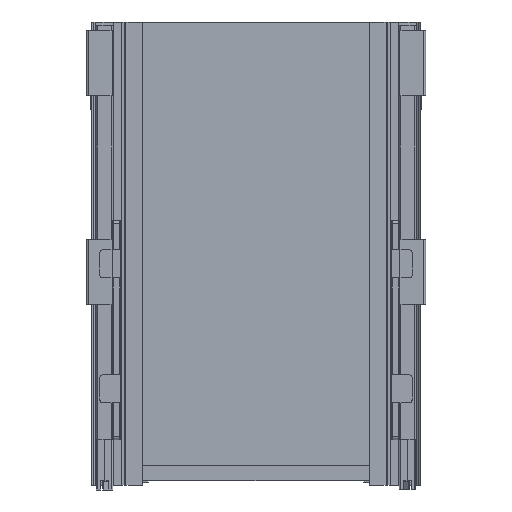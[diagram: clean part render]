
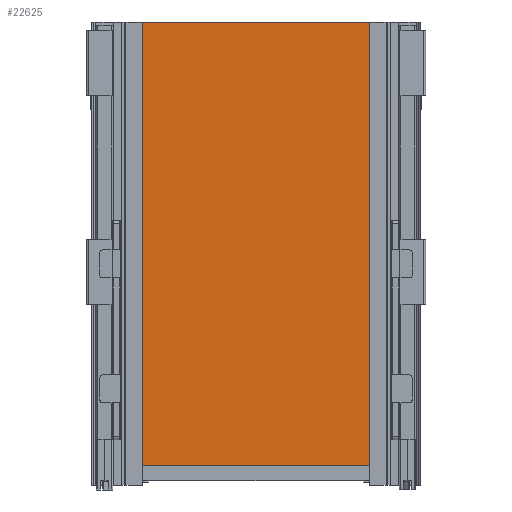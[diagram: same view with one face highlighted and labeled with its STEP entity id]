
A CAD part, front view. The second image highlights one B-rep face of the part: STEP entity #22625.
In plain terms, the highlighted planar face has unit normal (0, -1, 0).
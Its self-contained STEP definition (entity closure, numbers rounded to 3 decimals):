
#1441=PLANE('',#24702);
#2597=FACE_OUTER_BOUND('',#3945,.T.);
#3945=EDGE_LOOP('',(#20263,#20264,#20265,#20266));
#6967=LINE('',#37236,#9131);
#6971=LINE('',#37244,#9135);
#6974=LINE('',#37250,#9138);
#6977=LINE('',#37255,#9141);
#9131=VECTOR('',#30960,476.);
#9135=VECTOR('',#30966,278.);
#9138=VECTOR('',#30971,476.);
#9141=VECTOR('',#30976,278.);
#11133=VERTEX_POINT('',#37234);
#11134=VERTEX_POINT('',#37235);
#11137=VERTEX_POINT('',#37243);
#11139=VERTEX_POINT('',#37249);
#14171=EDGE_CURVE('',#11133,#11134,#6967,.T.);
#14175=EDGE_CURVE('',#11134,#11137,#6971,.T.);
#14178=EDGE_CURVE('',#11137,#11139,#6974,.T.);
#14181=EDGE_CURVE('',#11139,#11133,#6977,.T.);
#20263=ORIENTED_EDGE('',*,*,#14181,.T.);
#20264=ORIENTED_EDGE('',*,*,#14171,.T.);
#20265=ORIENTED_EDGE('',*,*,#14175,.T.);
#20266=ORIENTED_EDGE('',*,*,#14178,.T.);
#22625=ADVANCED_FACE('',(#2597),#1441,.T.);
#24702=AXIS2_PLACEMENT_3D('',#37257,#30978,#30979);
#30960=DIRECTION('',(0.,0.,-1.));
#30966=DIRECTION('',(1.,0.,0.));
#30971=DIRECTION('',(0.,0.,1.));
#30976=DIRECTION('',(-1.,0.,0.));
#30978=DIRECTION('center_axis',(0.,-1.,0.));
#30979=DIRECTION('ref_axis',(0.,0.,-1.));
#37234=CARTESIAN_POINT('',(-139.,0.,238.));
#37235=CARTESIAN_POINT('',(-139.,0.,-238.));
#37236=CARTESIAN_POINT('',(-139.,0.,238.));
#37243=CARTESIAN_POINT('',(139.,0.,-238.));
#37244=CARTESIAN_POINT('',(-139.,0.,-238.));
#37249=CARTESIAN_POINT('',(139.,0.,238.));
#37250=CARTESIAN_POINT('',(139.,0.,-238.));
#37255=CARTESIAN_POINT('',(139.,0.,238.));
#37257=CARTESIAN_POINT('Origin',(0.,0.,0.));
